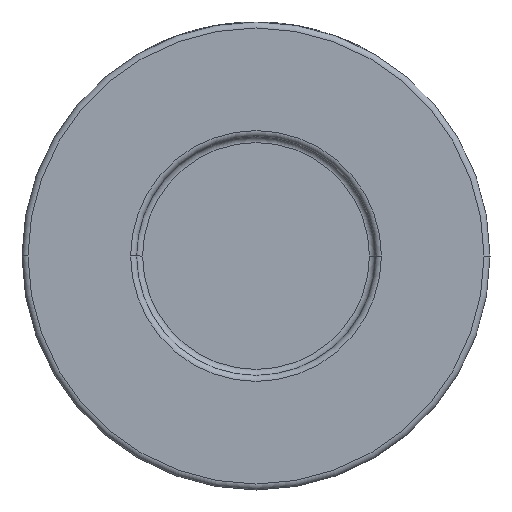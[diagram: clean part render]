
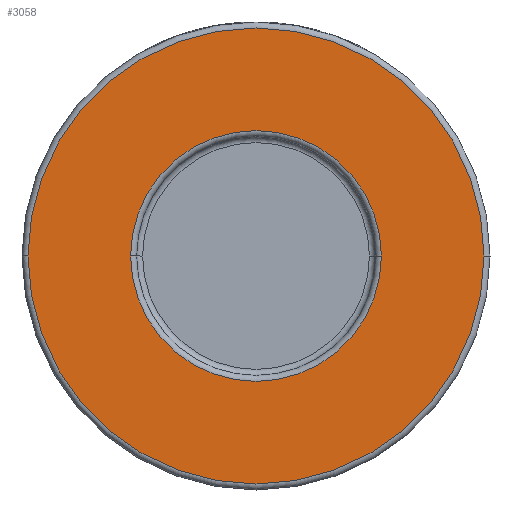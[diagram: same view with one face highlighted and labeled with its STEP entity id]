
A CAD part, front view. The second image highlights one B-rep face of the part: STEP entity #3058.
In plain terms, the highlighted planar face has unit normal (0, -1, 0).
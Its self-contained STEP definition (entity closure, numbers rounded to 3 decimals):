
#136 = AXIS2_PLACEMENT_3D ( 'NONE', #3611, #3937, #2177 ) ;
#331 = DIRECTION ( 'NONE',  ( 0., -1., 0. ) ) ;
#926 = CARTESIAN_POINT ( 'NONE',  ( 38., -26., 0. ) ) ;
#929 = CIRCLE ( 'NONE', #2186, 20.9 ) ;
#1041 = FACE_BOUND ( 'NONE', #1528, .T. ) ;
#1134 = VERTEX_POINT ( 'NONE', #926 ) ;
#1205 = AXIS2_PLACEMENT_3D ( 'NONE', #1932, #3036, #4031 ) ;
#1213 = CARTESIAN_POINT ( 'NONE',  ( 0., -26., 0. ) ) ;
#1368 = CARTESIAN_POINT ( 'NONE',  ( 39., -26., 0. ) ) ;
#1421 = EDGE_CURVE ( 'NONE', #1134, #2320, #3197, .T. ) ;
#1475 = EDGE_CURVE ( 'NONE', #2320, #1134, #1569, .T. ) ;
#1528 = EDGE_LOOP ( 'NONE', ( #4402, #1854 ) ) ;
#1569 = CIRCLE ( 'NONE', #2166, 38. ) ;
#1623 = DIRECTION ( 'NONE',  ( 1., 0., 0. ) ) ;
#1765 = VERTEX_POINT ( 'NONE', #2116 ) ;
#1785 = FACE_OUTER_BOUND ( 'NONE', #1997, .T. ) ;
#1854 = ORIENTED_EDGE ( 'NONE', *, *, #4124, .T. ) ;
#1932 = CARTESIAN_POINT ( 'NONE',  ( 0., -26., 0. ) ) ;
#1982 = EDGE_CURVE ( 'NONE', #2866, #1765, #929, .T. ) ;
#1997 = EDGE_LOOP ( 'NONE', ( #2952, #3120 ) ) ;
#2116 = CARTESIAN_POINT ( 'NONE',  ( -20.9, -26., 0. ) ) ;
#2166 = AXIS2_PLACEMENT_3D ( 'NONE', #1213, #3385, #1623 ) ;
#2177 = DIRECTION ( 'NONE',  ( 1., 0., 0. ) ) ;
#2186 = AXIS2_PLACEMENT_3D ( 'NONE', #4420, #2672, #3427 ) ;
#2320 = VERTEX_POINT ( 'NONE', #3954 ) ;
#2672 = DIRECTION ( 'NONE',  ( 0., 1., 0. ) ) ;
#2866 = VERTEX_POINT ( 'NONE', #3386 ) ;
#2952 = ORIENTED_EDGE ( 'NONE', *, *, #1421, .T. ) ;
#3036 = DIRECTION ( 'NONE',  ( 0., -1., 0. ) ) ;
#3058 = ADVANCED_FACE ( 'NONE', ( #1041, #1785 ), #3193, .T. ) ;
#3073 = CIRCLE ( 'NONE', #136, 20.9 ) ;
#3120 = ORIENTED_EDGE ( 'NONE', *, *, #1475, .T. ) ;
#3193 = PLANE ( 'NONE',  #3671 ) ;
#3197 = CIRCLE ( 'NONE', #1205, 38. ) ;
#3385 = DIRECTION ( 'NONE',  ( 0., -1., 0. ) ) ;
#3386 = CARTESIAN_POINT ( 'NONE',  ( 20.9, -26., 0. ) ) ;
#3427 = DIRECTION ( 'NONE',  ( 1., 0., 0. ) ) ;
#3611 = CARTESIAN_POINT ( 'NONE',  ( 0., -26., 0. ) ) ;
#3671 = AXIS2_PLACEMENT_3D ( 'NONE', #1368, #331, #3835 ) ;
#3835 = DIRECTION ( 'NONE',  ( 1., 0., 0. ) ) ;
#3937 = DIRECTION ( 'NONE',  ( 0., 1., 0. ) ) ;
#3954 = CARTESIAN_POINT ( 'NONE',  ( -38., -26., 0. ) ) ;
#4031 = DIRECTION ( 'NONE',  ( 1., 0., 0. ) ) ;
#4124 = EDGE_CURVE ( 'NONE', #1765, #2866, #3073, .T. ) ;
#4402 = ORIENTED_EDGE ( 'NONE', *, *, #1982, .T. ) ;
#4420 = CARTESIAN_POINT ( 'NONE',  ( 0., -26., 0. ) ) ;
